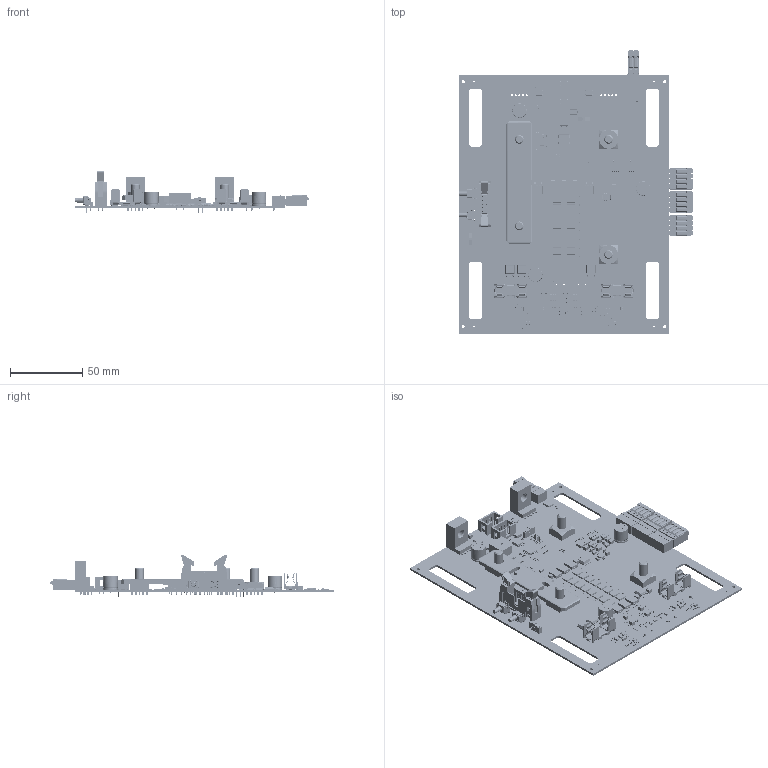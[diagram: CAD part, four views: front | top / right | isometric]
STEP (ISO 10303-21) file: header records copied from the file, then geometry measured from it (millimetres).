
FILE_DESCRIPTION(('KiCad electronic assembly'),'2;1');
FILE_NAME('smartPro.step','2025-03-26T18:59:16',('Pcbnew'),('Kicad'), 'Open CASCADE STEP processor 7.8','KiCad to STEP converter','Unknown' );
FILE_SCHEMA(('AUTOMOTIVE_DESIGN { 1 0 10303 214 1 1 1 1 }'));
Length unit declared in the file: millimetre
Products named in the file (73): smartPro 1; R_0603_1608Metric; PinHeader_2x05_P1.27mm_Vertical_SMD; C_1210_3225Metric; C_0603_1608Metric; 61201022021; 10; 6120xx22x21_LEVIER_COURT; 6120xx21621_PIN; TO-252-2; smartPro 1.14.1; SOIC-8_5.3x5.3mm_P1.27mm; LED_0603_1608Metric; PQFN-8-EP_6x5mm_P1.27mm_Generic; SOT-23; LQH32CN2R2M53L; Rect1; Rect2; Rect3; Rect4; Rect5; Pad0; Pad1; D_SMC; SOT-353_SC-70-5; SOT-23-5; D_SMB; 7461098; 74622106; Download_STEP_691304100004 (rev1); 691304100004; 691304100004_Bas; 6913041000xx_Levier; 6913041000xx_Pin; 6913041000xx_Lamelle; HSOP-8-1EP_3.9x4.9mm_P1.27mm_EP2.41x3.1mm; ws-sltv_450301014042 (rev1); cover; slide; SOT-23-8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
Assembly tree (349 placements, depth 3):
  smartPro 1
    R_0603_1608Metric  x102
    PinHeader_2x05_P1.27mm_Vertical_SMD
    C_1210_3225Metric  x19
    C_0603_1608Metric  x60
    61201022021
      10
      6120xx22x21_LEVIER_COURT  x2
      6120xx21621_PIN  x10
    TO-252-2  x5
      smartPro 1.14.1
    SOIC-8_5.3x5.3mm_P1.27mm
    LED_0603_1608Metric  x10
    PQFN-8-EP_6x5mm_P1.27mm_Generic  x17
    SOT-23  x9
    LQH32CN2R2M53L  x3
      Rect1
      Rect2
      Rect3
      Rect4
      Rect5
      Pad0
      Pad1
    D_SMC  x6
    SOT-353_SC-70-5  x2
    SOT-23-5  x6
    D_SMB
    7461098  x4
    74622106  x2
    Download_STEP_691304100004 (rev1)  x3
      691304100004
      691304100004_Bas
      6913041000xx_Levier
      6913041000xx_Pin
      6913041000xx_Lamelle
    HSOP-8-1EP_3.9x4.9mm_P1.27mm_EP2.41x3.1mm  x2
    ws-sltv_450301014042 (rev1)  x2
      cover
      slide
    SOT-23-8  x2
    CP_Radial_D10.0mm_P5.00mm  x3
    C_1206_3216Metric  x7
    Download_STP_WE-LQFS-4818 (rev1)  x2
      4818_74406042_Housing
      4818_74406042
      4818_74406042
      4818_74406042_Pads
      Glue L
      Glue R
    STP_4312560837x6  x2
      bracket
      frame
    SO-4_4.4x4.3mm_P2.54mm  x2
    PhoenixContact_MC_1,5_2-G-3.5_1x02_P3.50mm_Horizontal
    SOIC-8_3.9x4.9mm_P1.27mm
    CMI-1265-88-SMT-TR
    LQFP-32_7x7mm_P0.8mm
    IDC-Header_2x03_P2.54mm_Vertical  x2
    si_halter0031.8221  x2
    ltc7000  x2
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Bounding box: 162.7 x 196.95 x 29.5 mm (x, y, z)
Volume: 70223 mm3; surface area: 104902.2 mm2
Topology: 448 solids, 451 shells, 21370 faces, 55580 edges, 35636 vertices
Faces by surface type: plane 15607, cylinder 4617, bspline 928, cone 102, extrusion 52, torus 44, revolution 12, sphere 8
Full cylindrical faces by diameter (mm): 0.1 x28, 0.155 x2, 0.2 x2, 0.3 x24, 0.4 x2, 0.5 x2, 0.6 x7, 0.7 x6, 0.8 x14, 0.85 x8, 0.99 x4, 1 x55, 1.2 x28, 1.3 x4, 1.45 x150, 1.6 x2, 1.9 x2, 2.2 x4, 2.5 x16, 3.5 x2, 4.917 x2, 6 x8
Entity records: 240467 total; most frequent: CARTESIAN_POINT 41541, ORIENTED_EDGE 34697, DIRECTION 32215, EDGE_CURVE 17349, VECTOR 13603, LINE 13577, VERTEX_POINT 11119, AXIS2_PLACEMENT_3D 9304
